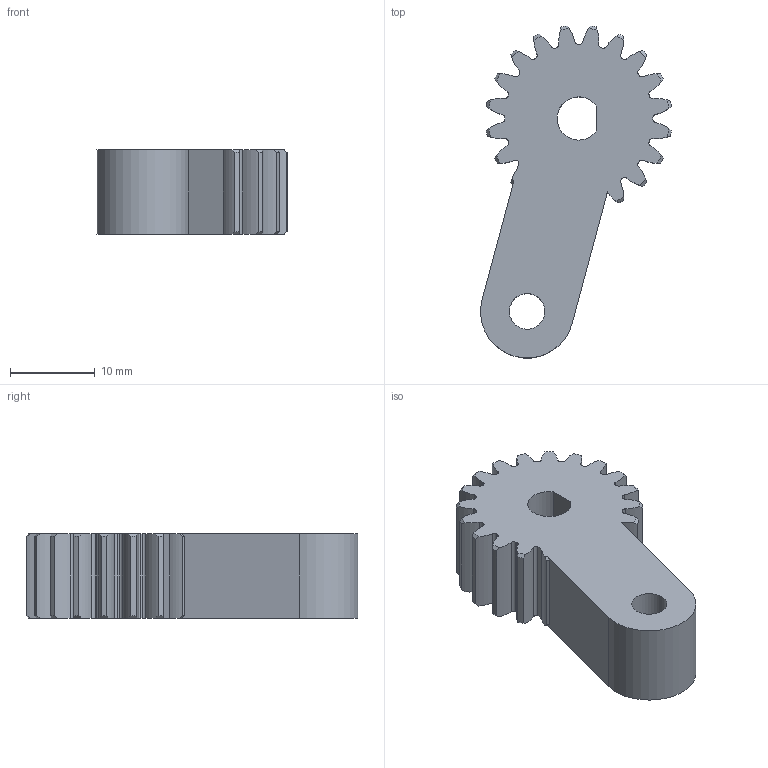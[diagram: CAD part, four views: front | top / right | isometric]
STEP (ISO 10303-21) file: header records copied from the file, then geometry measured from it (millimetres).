
FILE_DESCRIPTION(/* description */ (''),/* implementation_level */ '2;1');
FILE_NAME(/* name */ 'link Nema.step',/* time_stamp */ '2026-02-28T20:12:21+01:00',/* author */ (''),/* organization */ (''),/* preprocessor_version */ 'ST-DEVELOPER v20.1',/* originating_system */ 'Autodesk Translation Framework v14.24.0.0',/* authorisation */ '');
FILE_SCHEMA (('AUTOMOTIVE_DESIGN { 1 0 10303 214 3 1 1 }'));
Length unit declared in the file: millimetre
Products named in the file (1): link Nema
Bounding box: 22.49 x 39.16 x 10 mm (x, y, z)
Volume: 4802.6 mm3; surface area: 2713.4 mm2
Topology: 1 solids, 1 shells, 140 faces, 414 edges, 276 vertices
Faces by surface type: cylinder 84, cone 34, plane 22
Full cylindrical faces by diameter (mm): 4.2 x1
Entity records: 4885 total; most frequent: CARTESIAN_POINT 1033, DIRECTION 830, ORIENTED_EDGE 828, EDGE_CURVE 414, AXIS2_PLACEMENT_3D 343, VERTEX_POINT 276, CIRCLE 202, EDGE_LOOP 144
